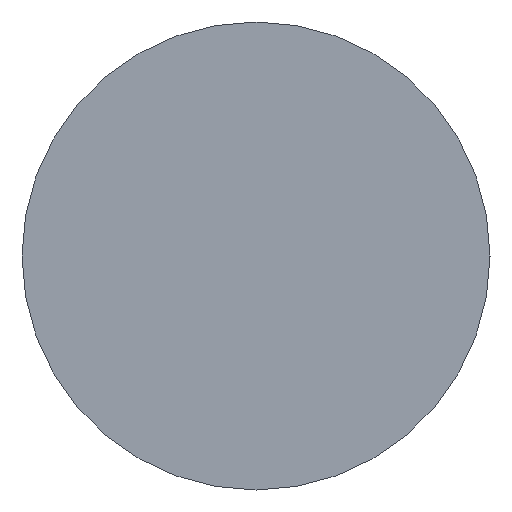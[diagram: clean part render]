
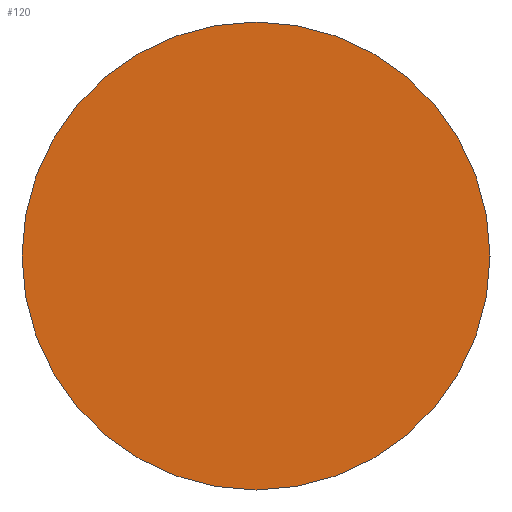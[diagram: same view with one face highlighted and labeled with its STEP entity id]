
A CAD part, left-side view. The second image highlights one B-rep face of the part: STEP entity #120.
In plain terms, the highlighted planar face has unit normal (-1, 0, 0).
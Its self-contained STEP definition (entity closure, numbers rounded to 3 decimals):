
#1=CARTESIAN_POINT('',(0.,0.,0.));
#2=DIRECTION('',(1.,0.,0.));
#3=DIRECTION('',(0.,-1.,0.));
#4=AXIS2_PLACEMENT_3D('',#1,#2,#3);
#6=CARTESIAN_POINT('',(0.,0.,0.));
#7=DIRECTION('',(1.,0.,0.));
#8=DIRECTION('',(0.,1.,0.));
#9=AXIS2_PLACEMENT_3D('',#6,#7,#8);
#85=CARTESIAN_POINT('',(0.,-3.5,0.));
#86=CARTESIAN_POINT('',(0.,3.5,0.));
#87=VERTEX_POINT('',#85);
#88=VERTEX_POINT('',#86);
#109=CARTESIAN_POINT('',(0.,0.,0.));
#110=DIRECTION('',(1.,0.,0.));
#111=DIRECTION('',(0.,-1.,0.));
#112=AXIS2_PLACEMENT_3D('',#109,#110,#111);
#113=PLANE('',#112);
#115=ORIENTED_EDGE('',*,*,#114,.T.);
#117=ORIENTED_EDGE('',*,*,#116,.T.);
#118=EDGE_LOOP('',(#115,#117));
#119=FACE_OUTER_BOUND('',#118,.F.);
#120=ADVANCED_FACE('',(#119),#113,.F.);
#5=CIRCLE('',#4,3.5);
#10=CIRCLE('',#9,3.5);
#114=EDGE_CURVE('',#87,#88,#5,.T.);
#116=EDGE_CURVE('',#88,#87,#10,.T.);
